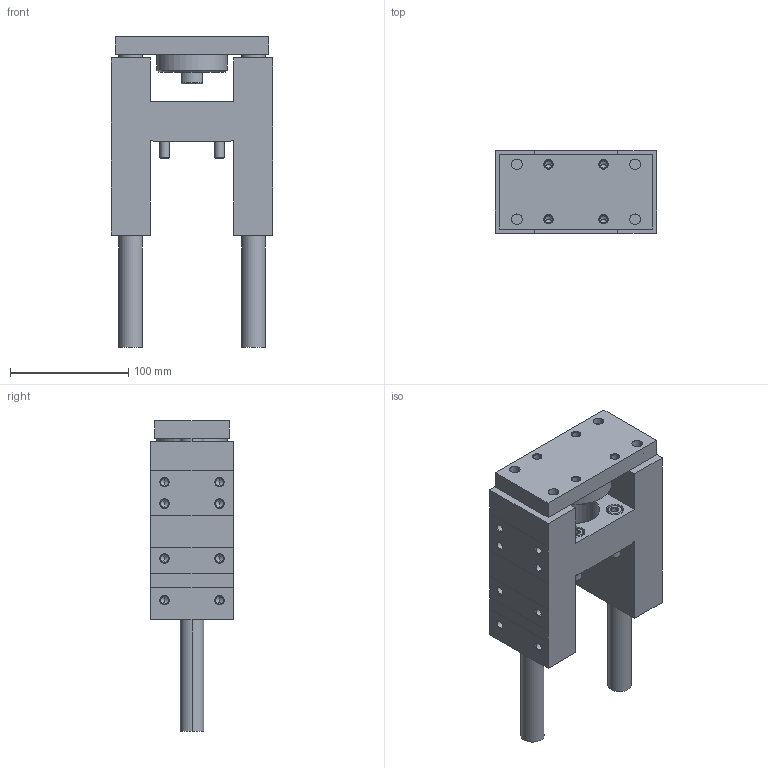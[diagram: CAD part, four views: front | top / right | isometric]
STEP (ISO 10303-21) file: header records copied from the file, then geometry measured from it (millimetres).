
FILE_DESCRIPTION (( 'STEP AP203' ), '1' );
FILE_NAME ('GB50-75.STEP', '2020-04-24T13:12:06', ( '' ), ( '' ), 'SwSTEP 2.0', 'SolidWorks 2019', '' );
FILE_SCHEMA (( 'CONFIG_CONTROL_DESIGN' ));
Length unit declared in the file: millimetre
Products named in the file (1): GB50-75
Bounding box: 137 x 70 x 263 mm (x, y, z)
Volume: 1024083.2 mm3; surface area: 177909.3 mm2
Topology: 6 solids, 6 shells, 377 faces, 852 edges, 480 vertices
Faces by surface type: cone 154, plane 117, cylinder 106
Entity records: 10863 total; most frequent: CARTESIAN_POINT 2350, DIRECTION 1902, ORIENTED_EDGE 1624, EDGE_CURVE 812, AXIS2_PLACEMENT_3D 744, VERTEX_POINT 480, EDGE_LOOP 440, VECTOR 414
